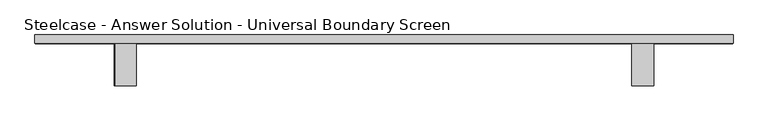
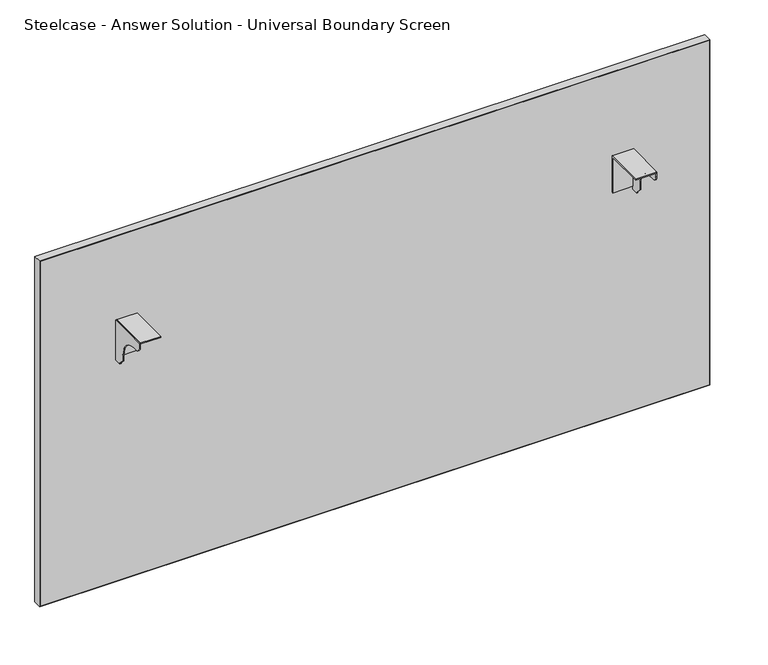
"""IFC4 building model written with IfcOpenShell, lengths in millimetres: furniture geometry, Steelcase - Answer Solution - Universal Boundary Screen : 36H x 66W."""

from ifc_helpers import new_model, si_unit, point, frame, frame_2d, origin, place, context, project, spatial, polyline, circle_curve, trimmed, segment, composite_curve, outline, extrude, source, transform, mapped, element, save


def steelcase_answer_solution_universal_boundary_screen_eafce9e7(model_context):
    return source(origin(), model_context, "Body", "SweptSolid", [
        extrude(outline(polyline([(-103.1670434, 689.3558876), (-103.1670434, 692.1499758), (-1.5668826, 692.1499758), (-1.5668826, 595.5029317), (-4.1079736, 595.5029317), (-4.1079736, 689.3558876), (-103.1670434, 689.3558876)])), frame((1124.4336711, 0.0, 0.0), z_axis=(1.0, 0.0, 0.0), x_axis=(0.0, 1.0, 0.0)), (0.0, 0.0, 1.0), 53.3444116),
        extrude(outline(composite_curve([segment(polyline([(-103.1670434, 679.2814802), (-103.1670434, 692.1499758), (-1.5668826, 692.1499758), (-1.5668826, 586.9634093), (-19.8232934, 586.9634093), (-19.8232934, 589.7574248), (-32.0458032, 601.9799346), (-32.0458032, 615.7814802)]), True, "CONTINUOUS"), segment(trimmed(circle_curve(frame_2d((-82.8458032, 615.7814802)), 50.8), [point((-32.0458032, 615.7814802))], [point((-82.8458032, 666.5814802))], True, "CARTESIAN"), True, "CONTINUOUS"), segment(polyline([(-82.8458032, 666.5814802), (-90.4670434, 666.5814802)]), True, "CONTINUOUS"), segment(trimmed(circle_curve(frame_2d((-90.4670434, 679.2814802)), 12.7), [point((-90.4670434, 666.5814802))], [point((-103.1670434, 679.2814802))], False, "CARTESIAN"), True, "CONTINUOUS")], self_intersect=False)), frame((1175.2328959, 0.0, 0.0), z_axis=(1.0, 0.0, 0.0), x_axis=(0.0, 1.0, 0.0)), (0.0, 0.0, 1.0), 2.5451868),
        extrude(outline(polyline([(-103.1670434, 689.3558876), (-103.1670434, 692.1499758), (-1.5668826, 692.1499758), (-1.5668826, 595.5029317), (-4.1079736, 595.5029317), (-4.1079736, 689.3558876), (-103.1670434, 689.3558876)])), frame((-115.0767306, 0.0, 0.0), z_axis=(1.0, 0.0, 0.0), x_axis=(0.0, 1.0, 0.0)), (0.0, 0.0, 1.0), 50.7992249),
        extrude(outline(composite_curve([segment(polyline([(-103.1670434, 679.2814802), (-103.1670434, 692.1499758), (-1.5668826, 692.1499758), (-1.5668826, 586.9634093), (-19.8232934, 586.9634093), (-19.8232934, 589.7574248), (-32.0458032, 601.9799346), (-32.0458032, 615.7814802)]), True, "CONTINUOUS"), segment(trimmed(circle_curve(frame_2d((-82.8458032, 615.7814802)), 50.8), [point((-32.0458032, 615.7814802))], [point((-82.8458032, 666.5814802))], True, "CARTESIAN"), True, "CONTINUOUS"), segment(polyline([(-82.8458032, 666.5814802), (-90.4670434, 666.5814802)]), True, "CONTINUOUS"), segment(trimmed(circle_curve(frame_2d((-90.4670434, 679.2814802)), 12.7), [point((-90.4670434, 666.5814802))], [point((-103.1670434, 679.2814802))], False, "CARTESIAN"), True, "CONTINUOUS")], self_intersect=False)), frame((-117.6219173, 0.0, 0.0), z_axis=(1.0, 0.0, 0.0), x_axis=(0.0, 1.0, 0.0)), (0.0, 0.0, 1.0), 2.5451868),
        extrude(outline(polyline([(-307.1293422, 18.9055112), (1367.2855076, 18.9055112), (1367.2855076, -1.5668826), (-307.1293422, -1.5668826), (-307.1293422, 18.9055112)])), frame((0.0, 0.0, 1.016), z_axis=(0.0, 0.0, 1.0), x_axis=(1.0, 0.0, 0.0)), (0.0, 0.0, 1.0), 912.3914249),
        extrude(outline(polyline([(914.4, 1368.2780827), (914.4, -308.1219173), (0.0, -308.1219173), (0.0, 1368.2780827), (914.4, 1368.2780827)]), holes=[polyline([(913.4074249, 1367.2855076), (1.016, 1367.2855076), (1.016, -307.1293422), (913.4074249, -307.1293422), (913.4074249, 1367.2855076)])]), frame((0.0, -1.5668826, 0.0), z_axis=(0.0, 1.0, 0.0), x_axis=(0.0, 0.0, 1.0)), (0.0, 0.0, 1.0), 20.4723938),
    ])


if __name__ == "__main__":
    model = new_model("IFC4")
    model_context = context("Model", 3, world=origin())
    ifc_project = project(units=[si_unit("LENGTHUNIT", "METRE", prefix="MILLI")], contexts=[model_context])
    site = spatial("IfcSite", under=ifc_project)
    building = spatial("IfcBuilding", under=site)
    placement = place(None, origin())
    steelcase_answer_solution_universal_boundary_screen_shape = steelcase_answer_solution_universal_boundary_screen_eafce9e7(model_context)
    element("IfcFurniture", 1, ObjectType="Steelcase - Answer Solution - Universal Boundary Screen : 36H x 66W", at=placement, inside=building, context=model_context, shape_type="MappedRepresentation", body=[
        mapped(steelcase_answer_solution_universal_boundary_screen_shape, transform((0.0, 0.0, 0.0), x_axis=(1.0, 0.0, 0.0), y_axis=(0.0, 1.0, 0.0), z_axis=(0.0, 0.0, 1.0))),
    ])
    save(model, "model.ifc")
